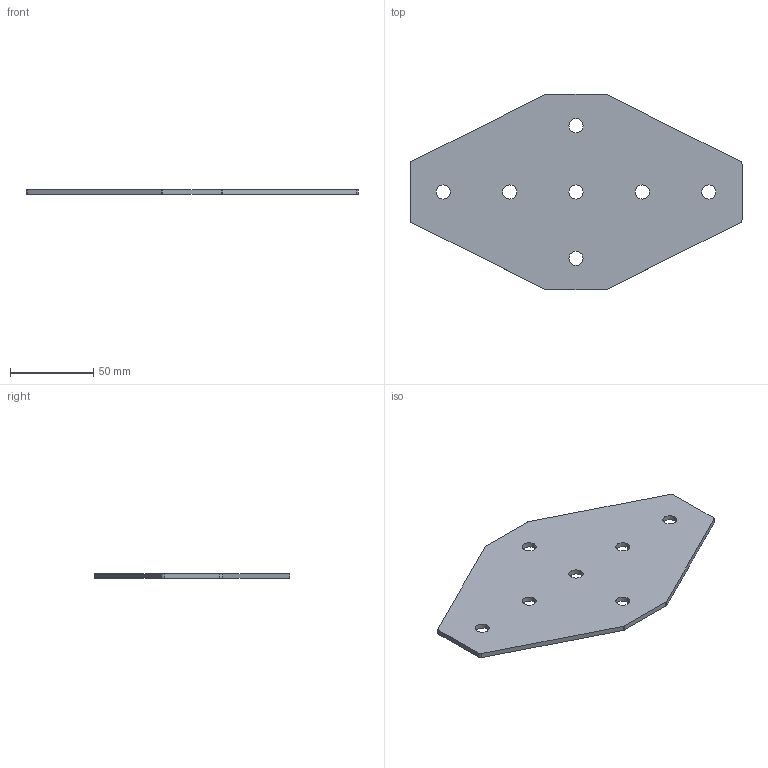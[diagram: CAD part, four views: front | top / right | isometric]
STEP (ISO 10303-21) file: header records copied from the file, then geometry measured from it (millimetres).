
FILE_DESCRIPTION(/* description */ ('Piastra di giunzione centrale'),/* implementation_level */ '2;1');
FILE_NAME(/* name */ 'C:\omnitec\Desktop\Connessone PCB\JPR40.stp',/* time_stamp */ '2021-02-19T10:06:31+01:00',/* author */ ('omnitec'),/* organization */ ('Microsoft'),/* preprocessor_version */ 'ST-DEVELOPER v18.1',/* originating_system */ 'Autodesk Inventor 2021',/* authorisation */ '');
FILE_SCHEMA (('AUTOMOTIVE_DESIGN { 1 0 10303 214 3 1 1 }'));
Length unit declared in the file: millimetre
Products named in the file (1): JPR40
Bounding box: 200 x 118 x 3 mm (x, y, z)
Volume: 49433.1 mm3; surface area: 35045 mm2
Topology: 1 solids, 1 shells, 25 faces, 69 edges, 46 vertices
Faces by surface type: cylinder 15, plane 10
Full cylindrical faces by diameter (mm): 8.5 x7
Entity records: 882 total; most frequent: DIRECTION 151, CARTESIAN_POINT 141, ORIENTED_EDGE 138, EDGE_CURVE 69, AXIS2_PLACEMENT_3D 56, VERTEX_POINT 46, EDGE_LOOP 39, LINE 39
